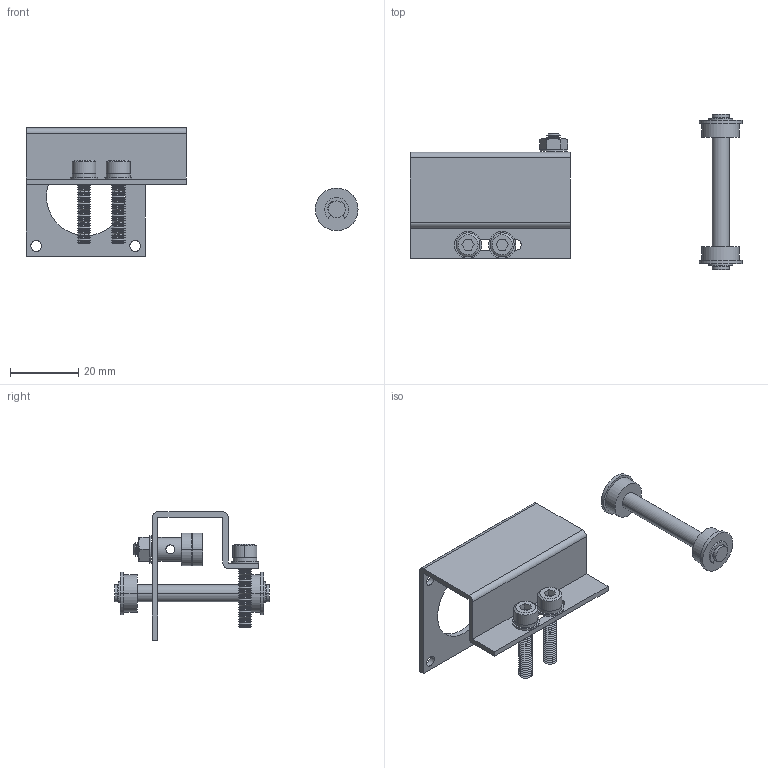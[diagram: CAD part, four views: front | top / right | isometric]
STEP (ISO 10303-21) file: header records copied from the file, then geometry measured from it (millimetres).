
FILE_DESCRIPTION((''),'1');
FILE_NAME('C:/Users/h-sekido/Desktop/今日のごみ/OP02', '2018-04-12T05:38:23',(''), (''), 'KCM Version 1.1.1442.0', 'Kubotek KeyCreator', '');
FILE_SCHEMA(('AUTOMOTIVE_DESIGN'));
Length unit declared in the file: millimetre
Bounding box: 97.25 x 45.4 x 37.6 mm (x, y, z)
Surface area: 11284.8 mm2 (no closed solid volume)
Topology: 0 solids, 518 shells, 518 faces, 2111 edges, 2111 vertices
Faces by surface type: bspline 306, cylinder 107, plane 105
Entity records: 33862 total; most frequent: CARTESIAN_POINT 10657, DIRECTION 2380, VERTEX_POINT 2111, EDGE_CURVE 2111, ORIENTED_EDGE 2111, AXIS2_PLACEMENT_3D 1190, B_SPLINE_CURVE_WITH_KNOTS 1110, COLOUR_RGB 1036
